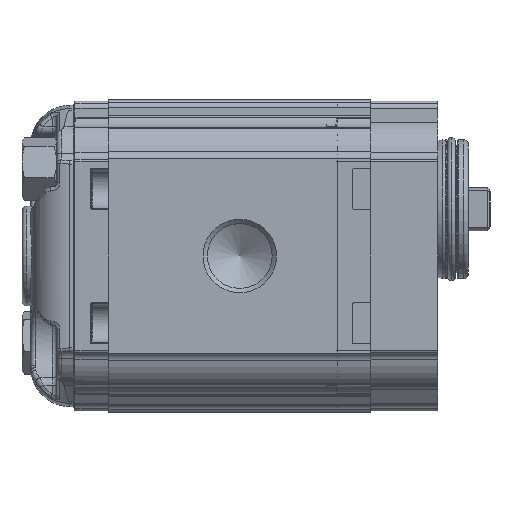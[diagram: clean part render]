
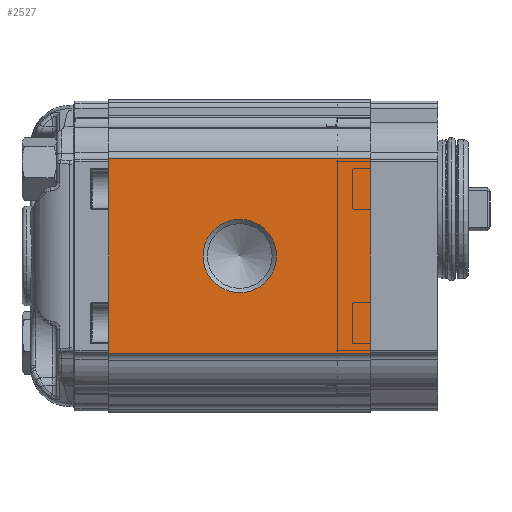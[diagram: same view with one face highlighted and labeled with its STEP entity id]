
A CAD part, left-side view. The second image highlights one B-rep face of the part: STEP entity #2527.
In plain terms, the highlighted planar face has unit normal (-1, 0, 0).
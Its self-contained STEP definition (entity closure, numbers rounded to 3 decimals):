
#2527 = ADVANCED_FACE( '', ( #5841, #5842 ), #5843, .T. );
#5841 = FACE_BOUND( '', #11703, .T. );
#5842 = FACE_OUTER_BOUND( '', #11704, .T. );
#5843 = PLANE( '', #11705 );
#11703 = EDGE_LOOP( '', ( #20798 ) );
#11704 = EDGE_LOOP( '', ( #20799, #20800, #20801, #20802 ) );
#11705 = AXIS2_PLACEMENT_3D( '', #20803, #20804, #20805 );
#20798 = ORIENTED_EDGE( '', *, *, #29138, .F. );
#20799 = ORIENTED_EDGE( '', *, *, #27639, .T. );
#20800 = ORIENTED_EDGE( '', *, *, #29797, .T. );
#20801 = ORIENTED_EDGE( '', *, *, #29798, .T. );
#20802 = ORIENTED_EDGE( '', *, *, #29799, .F. );
#20803 = CARTESIAN_POINT( '', ( -33., 132.376, 48.138 ) );
#20804 = DIRECTION( '', ( -1., 0., 0. ) );
#20805 = DIRECTION( '', ( 0., 0., 1. ) );
#27639 = EDGE_CURVE( '', #32459, #32460, #32461, .T. );
#29138 = EDGE_CURVE( '', #34880, #34880, #34881, .F. );
#29797 = EDGE_CURVE( '', #32460, #35823, #35824, .T. );
#29798 = EDGE_CURVE( '', #35823, #35825, #35826, .F. );
#29799 = EDGE_CURVE( '', #32459, #35825, #35827, .T. );
#32459 = VERTEX_POINT( '', #40357 );
#32460 = VERTEX_POINT( '', #40358 );
#32461 = LINE( '', #40359, #40360 );
#34880 = VERTEX_POINT( '', #45514 );
#34881 = CIRCLE( '', #45515, 8.475 );
#35823 = VERTEX_POINT( '', #47670 );
#35824 = LINE( '', #47671, #47672 );
#35825 = VERTEX_POINT( '', #47673 );
#35826 = LINE( '', #47674, #47675 );
#35827 = LINE( '', #47676, #47677 );
#40357 = CARTESIAN_POINT( '', ( -33., 60.5, -22.5 ) );
#40358 = CARTESIAN_POINT( '', ( -33., 0., -22.5 ) );
#40359 = CARTESIAN_POINT( '', ( -33., 60.5, -22.5 ) );
#40360 = VECTOR( '', #52745, 1000. );
#45514 = CARTESIAN_POINT( '', ( -33., 30.25, -8.475 ) );
#45515 = AXIS2_PLACEMENT_3D( '', #54621, #54622, #54623 );
#47670 = CARTESIAN_POINT( '', ( -33., 0., 22.5 ) );
#47671 = CARTESIAN_POINT( '', ( -33., 0., -21.711 ) );
#47672 = VECTOR( '', #55446, 1000. );
#47673 = CARTESIAN_POINT( '', ( -33., 60.5, 22.5 ) );
#47674 = CARTESIAN_POINT( '', ( -33., 60.5, 22.5 ) );
#47675 = VECTOR( '', #55447, 1000. );
#47676 = CARTESIAN_POINT( '', ( -33., 60.5, -21.711 ) );
#47677 = VECTOR( '', #55448, 1000. );
#52745 = DIRECTION( '', ( 0., -1., 0. ) );
#54621 = CARTESIAN_POINT( '', ( -33., 30.25, 0. ) );
#54622 = DIRECTION( '', ( 1., 0., 0. ) );
#54623 = DIRECTION( '', ( 0., 0., -1. ) );
#55446 = DIRECTION( '', ( 0., 0., 1. ) );
#55447 = DIRECTION( '', ( 0., -1., 0. ) );
#55448 = DIRECTION( '', ( 0., 0., 1. ) );
